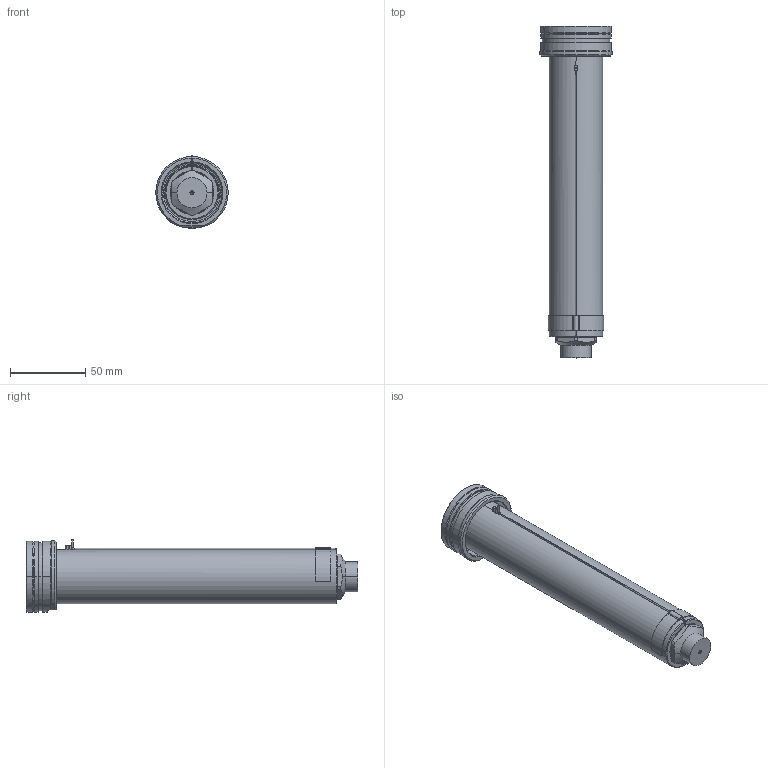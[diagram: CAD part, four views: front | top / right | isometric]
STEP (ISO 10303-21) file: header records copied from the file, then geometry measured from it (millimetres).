
FILE_DESCRIPTION((''),'2;1');
FILE_NAME('EO16_PG-FB_WR_200_SW','2024-02-19T11:44:10',('sundharh'),(''),'CREO PARAMETRIC BY PTC INC, 2023154','CREO PARAMETRIC BY PTC INC, 2023154','');
FILE_SCHEMA(('CONFIG_CONTROL_DESIGN'));
Length unit declared in the file: millimetre
Products named in the file (1): EO16_PG-FB_WR_200_SW
Bounding box: 47.97 x 220 x 48 mm (x, y, z)
Volume: 181207.4 mm3; surface area: 45567.9 mm2
Topology: 1 solids, 1 shells, 204 faces, 538 edges, 330 vertices
Faces by surface type: cylinder 81, plane 58, cone 41, torus 14, bspline 7, sphere 3
Entity records: 7496 total; most frequent: CARTESIAN_POINT 2368, DIRECTION 1133, ORIENTED_EDGE 1056, EDGE_CURVE 528, AXIS2_PLACEMENT_3D 472, VERTEX_POINT 330, CIRCLE 275, EDGE_LOOP 222
